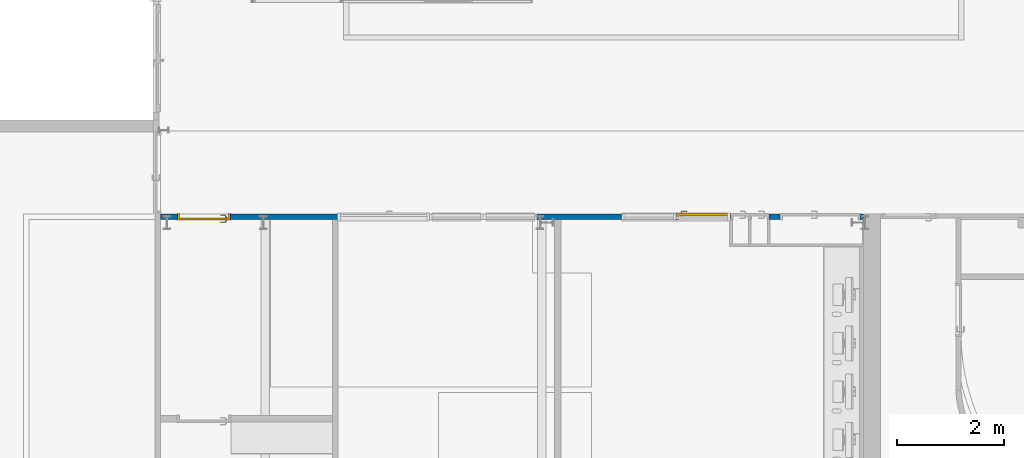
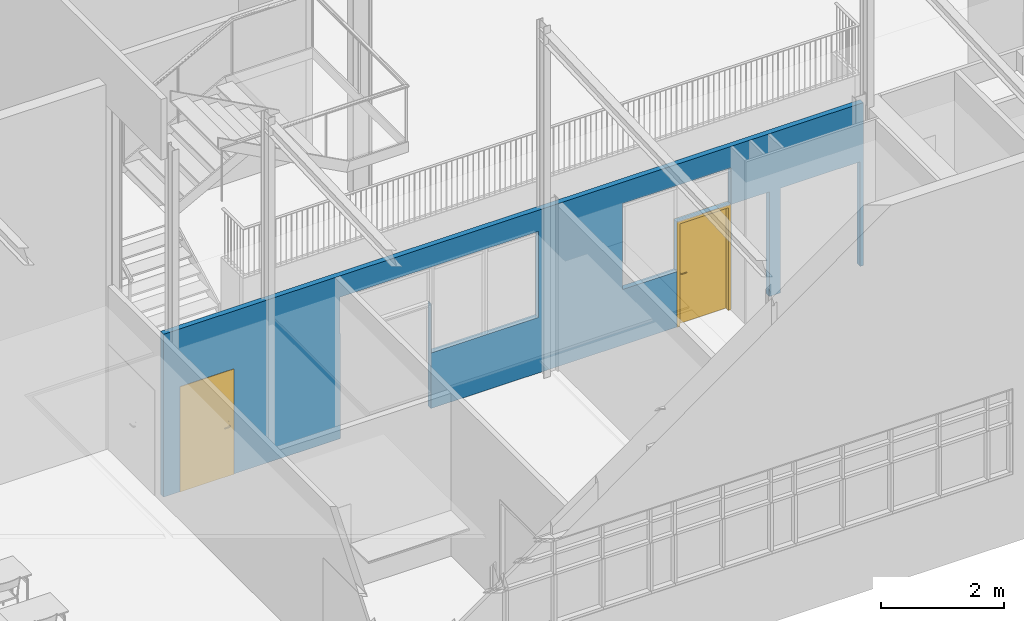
# One storey, part 37 of 137: 2 doors, 1 wall, 10 openings.
"""IFC2X3 building model written with IfcOpenShell, lengths in centimetres."""

import ifcopenshell
import ifcopenshell.guid

model = None  # the IFC model being written
_history = None  # IfcOwnerHistory: only IFC2X3 demands one
_inside = {}  # id of a spatial element -> (the spatial element, [elements in it])
_under = {}  # id of a project, library or spatial element -> (it, [spatial elements below it])
_declared = {}  # id of a project -> (the project, [libraries it declares])
_typed = {}  # id of a type object -> (the type object, [elements of that type])
_made_of = {}  # id of a material, layer set ... -> (it, [elements and type objects made of it])


def new_model(schema):
    """Start an empty IFC model of exactly this schema.

    Asked for "IFC4X3", IfcOpenShell would pick the latest addendum, in which some entities
    have other attributes; the version numbers below select the first issue.
    IFC2X3 requires an IfcOwnerHistory on every rooted entity: one is made here for all.
    """
    global model, _history
    if schema == "IFC4X3":
        model = ifcopenshell.file(schema_version=(4, 3, 0, 0))
    else:
        model = ifcopenshell.file(schema=schema)
    _inside.clear()
    _under.clear()
    _declared.clear()
    _typed.clear()
    _made_of.clear()
    _history = None
    if model.schema == "IFC2X3":
        org = make("IfcOrganization", Name="unknown")
        user = make(
            "IfcPersonAndOrganization",
            ThePerson=make("IfcPerson", FamilyName="unknown"),
            TheOrganization=org,
        )
        app = make(
            "IfcApplication",
            ApplicationDeveloper=org,
            Version="unknown",
            ApplicationFullName="unknown",
            ApplicationIdentifier="unknown",
        )
        _history = make(
            "IfcOwnerHistory",
            OwningUser=user,
            OwningApplication=app,
            ChangeAction="ADDED",
            CreationDate=0,
        )
    return model


def make(cls, **values):
    """One entity of the class cls with the attributes given. An attribute that is None is left unset."""
    return model.create_entity(
        cls, **{name: value for name, value in values.items() if value is not None}
    )


def entity(cls, *values):
    """Any entity or typed value of the class cls, its attributes in the order of the schema. None: left unset."""
    e = model.create_entity(cls)
    for i, value in enumerate(values):
        if value is not None:
            e[i] = value
    return e


def rooted(cls, **values):
    """An entity with a GlobalId (a new one), such as an element, a storey or a relation."""
    return make(cls, GlobalId=ifcopenshell.guid.new(), OwnerHistory=_history, **values)


def si_unit(unit_type, name, prefix=None):
    """IfcSIUnit, for example si_unit("LENGTHUNIT", "METRE", prefix="MILLI")."""
    return make("IfcSIUnit", UnitType=unit_type, Prefix=prefix, Name=name)


def converted_unit(unit_type, name, factor, base, dimensions=None, offset=None):
    """IfcConversionBasedUnit, such as the inch: factor (a typed value) times the base unit."""
    return make(
        "IfcConversionBasedUnit"
        if offset is None
        else "IfcConversionBasedUnitWithOffset",
        ConversionOffset=offset,
        Dimensions=None
        if dimensions is None
        else entity("IfcDimensionalExponents", *dimensions),
        UnitType=unit_type,
        Name=name,
        ConversionFactor=make(
            "IfcMeasureWithUnit", ValueComponent=factor, UnitComponent=base
        ),
    )


def derived_unit(unit_type, elements):
    """IfcDerivedUnit: a product of units, each with its exponent."""
    return make(
        "IfcDerivedUnit",
        Elements=[
            make("IfcDerivedUnitElement", Unit=unit, Exponent=power)
            for unit, power in elements
        ],
        UnitType=unit_type,
    )


def assignment(units):
    """IfcUnitAssignment: the units of a project."""
    return None if units is None else make("IfcUnitAssignment", Units=units)


def point(xyz):
    """IfcCartesianPoint."""
    return None if xyz is None else make("IfcCartesianPoint", Coordinates=xyz)


def direction(xyz):
    """IfcDirection."""
    return None if xyz is None else make("IfcDirection", DirectionRatios=xyz)


def frame(location, z_axis=None, x_axis=None):
    """IfcAxis2Placement3D, a coordinate frame: its origin and axes. An axis left out is left unset."""
    return make(
        "IfcAxis2Placement3D",
        Location=point(location),
        Axis=direction(z_axis),
        RefDirection=direction(x_axis),
    )


def frame_2d(location, x_axis=None):
    """IfcAxis2Placement2D, a coordinate frame in the plane: its origin and x axis."""
    return make(
        "IfcAxis2Placement2D", Location=point(location), RefDirection=direction(x_axis)
    )


def origin():
    """The frame at (0, 0, 0) with its axes left unset."""
    return frame((0.0, 0.0, 0.0))


def place(relative_to, where):
    """IfcLocalPlacement: puts the frame where relative to a parent placement (None: the world)."""
    return make(
        "IfcLocalPlacement", PlacementRelTo=relative_to, RelativePlacement=where
    )


def context(
    kind, dimensions, precision=None, world=None, true_north=None, identifier=None
):
    """IfcGeometricRepresentationContext, for example the 3D "Model" context."""
    return make(
        "IfcGeometricRepresentationContext",
        ContextIdentifier=identifier,
        ContextType=kind,
        CoordinateSpaceDimension=dimensions,
        Precision=precision,
        WorldCoordinateSystem=world,
        TrueNorth=true_north,
    )


def subcontext(parent, identifier, kind, view, scale=None):
    """IfcGeometricRepresentationSubContext, for example "Body" below "Model"."""
    return make(
        "IfcGeometricRepresentationSubContext",
        ContextIdentifier=identifier,
        ContextType=kind,
        ParentContext=parent,
        TargetScale=scale,
        TargetView=view,
    )


def project(units=None, contexts=None):
    """IfcProject with its units and contexts."""
    return rooted(
        "IfcProject",
        Name="project",
        RepresentationContexts=contexts,
        UnitsInContext=assignment(units),
    )


def spatial(cls, under=None, at=None, **own):
    """A site, building, storey or space (cls), placed at a placement, below another one or the project."""
    s = rooted(cls, ObjectPlacement=at, **own)
    if under is not None:
        _under.setdefault(under.id(), (under, []))[1].append(s)
    return s


def polyline(points):
    """IfcPolyline through the points."""
    return make("IfcPolyline", Points=[point(p) for p in points])


def profile(cls, at=None, kind="AREA", **sizes):
    """A parametric profile (cls). Its sizes go by their IFC names, for example OverallWidth=200.0."""
    return make(cls, ProfileType=kind, Position=at, **sizes)


def rectangle(**sizes):
    """IfcRectangleProfileDef."""
    return profile("IfcRectangleProfileDef", **sizes)


def outline(outer, holes=None, kind="AREA"):
    """IfcArbitraryClosedProfileDef: a profile drawn as a closed curve; with holes, ...WithVoids."""
    if holes is None:
        return make("IfcArbitraryClosedProfileDef", ProfileType=kind, OuterCurve=outer)
    return make(
        "IfcArbitraryProfileDefWithVoids",
        ProfileType=kind,
        OuterCurve=outer,
        InnerCurves=holes,
    )


def extrude(swept, where, along, depth):
    """IfcExtrudedAreaSolid: the profile swept, set in the frame where, extruded along a direction by depth."""
    return make(
        "IfcExtrudedAreaSolid",
        SweptArea=swept,
        Position=where,
        ExtrudedDirection=direction(along),
        Depth=depth,
    )


def clip(a, b, op="DIFFERENCE"):
    """IfcBooleanClippingResult: the solid a cut by the half space b."""
    return make(
        "IfcBooleanClippingResult", Operator=op, FirstOperand=a, SecondOperand=b
    )


def bounded_halfspace(plane, agree, where, boundary):
    """IfcPolygonalBoundedHalfSpace: a half space limited to a polygon's prism."""
    return make(
        "IfcPolygonalBoundedHalfSpace",
        BaseSurface=make("IfcPlane", Position=plane),
        AgreementFlag=agree,
        Position=where,
        PolygonalBoundary=boundary,
    )


def faces_of(points, faces, orient=None, outer=None):
    """IfcFace entities. A face is a list of loops; a loop is a list of indices into points, from 0.

    orient and outer hold one flag for each loop. By default every Orientation is true, the
    first loop of a face is its IfcFaceOuterBound and the others are IfcFaceBound.
    """
    made = []
    for i, loops in enumerate(faces):
        bounds = []
        for j, loop in enumerate(loops):
            is_outer = j == 0 if outer is None else outer[i][j]
            bounds.append(
                make(
                    "IfcFaceOuterBound" if is_outer else "IfcFaceBound",
                    Bound=make("IfcPolyLoop", Polygon=[points[k] for k in loop]),
                    Orientation=True if orient is None else orient[i][j],
                )
            )
        made.append(make("IfcFace", Bounds=bounds))
    return made


def faceted_brep(points, faces, orient=None, outer=None, voids=None):
    """IfcFacetedBrep: a solid bounded by flat faces; with voids (closed shells), ...WithVoids."""
    shared = [point(p) for p in points]
    hull = make("IfcClosedShell", CfsFaces=faces_of(shared, faces, orient, outer))
    if voids is None:
        return make("IfcFacetedBrep", Outer=hull)
    return make(
        "IfcFacetedBrepWithVoids",
        Outer=hull,
        Voids=[
            make(cls, CfsFaces=faces_of(shared, fs, o, b)) for cls, fs, o, b in voids
        ],
    )


def shape(context_of_items, identifier, shape_type, items):
    """IfcShapeRepresentation: the items that make up one representation, for example the "Body"."""
    return make(
        "IfcShapeRepresentation",
        ContextOfItems=context_of_items,
        RepresentationIdentifier=identifier,
        RepresentationType=shape_type,
        Items=items,
    )


def source(mapping_origin, context_of_items, identifier, shape_type, items):
    """IfcRepresentationMap: a shape defined once, which mapped items show again and again."""
    return make(
        "IfcRepresentationMap",
        MappingOrigin=mapping_origin,
        MappedRepresentation=shape(context_of_items, identifier, shape_type, items),
    )


def transform(
    local_origin,
    x_axis=None,
    y_axis=None,
    z_axis=None,
    scale=None,
    scale2=None,
    scale3=None,
    uniform=True,
):
    """IfcCartesianTransformationOperator3D, or its non-uniform kind. x_axis, y_axis, z_axis: its Axis1, 2, 3."""
    if uniform:
        return make(
            "IfcCartesianTransformationOperator3D",
            Axis1=direction(x_axis),
            Axis2=direction(y_axis),
            LocalOrigin=point(local_origin),
            Scale=scale,
            Axis3=direction(z_axis),
        )
    return make(
        "IfcCartesianTransformationOperator3DnonUniform",
        Axis1=direction(x_axis),
        Axis2=direction(y_axis),
        LocalOrigin=point(local_origin),
        Scale=scale,
        Axis3=direction(z_axis),
        Scale2=scale2,
        Scale3=scale3,
    )


def mapped(mapping_source, mapping_target):
    """IfcMappedItem: shows the shape of a source again, moved by a transform."""
    return make(
        "IfcMappedItem", MappingSource=mapping_source, MappingTarget=mapping_target
    )


def material(Name=None, Category=None):
    """IfcMaterial."""
    return make("IfcMaterial", Name=Name, Category=Category)


def material_list(materials):
    """IfcMaterialList."""
    return make("IfcMaterialList", Materials=materials)


def layer(
    of_material, thickness, ventilated=None, Name=None, Category=None, Priority=None
):
    """IfcMaterialLayer: one layer of a wall or slab, of a material (None: an air gap)."""
    return make(
        "IfcMaterialLayer",
        Material=of_material,
        LayerThickness=thickness,
        IsVentilated=ventilated,
        Name=Name,
        Category=Category,
        Priority=Priority,
    )


def layer_set(layers, Name=None):
    """IfcMaterialLayerSet."""
    return make("IfcMaterialLayerSet", MaterialLayers=layers, LayerSetName=Name)


def layer_usage(for_layer_set, set_direction, sense, offset, extent=None):
    """IfcMaterialLayerSetUsage: how a layer set lies in its element."""
    return make(
        "IfcMaterialLayerSetUsage",
        ForLayerSet=for_layer_set,
        LayerSetDirection=set_direction,
        DirectionSense=sense,
        OffsetFromReferenceLine=offset,
        ReferenceExtent=extent,
    )


def made_of(thing, what):
    """Note that an element or type object is made of a material, layer set ...; save() writes the relation."""
    if what is not None:
        _made_of.setdefault(what.id(), (what, []))[1].append(thing)
    return thing


def type_object(cls, material=None, **own):
    """A type object (cls), such as IfcWallType, which elements share."""
    return made_of(rooted(cls, **own), material)


def type_shapes(of_type, sources):
    """Give a type object the sources (RepresentationMaps) that its elements show as mapped items."""
    of_type.RepresentationMaps = sources


def element(
    cls,
    number,
    at=None,
    inside=None,
    cuts=None,
    type_object=None,
    material=None,
    context=None,
    identifier="Body",
    shape_type=None,
    held_by="IfcProductDefinitionShape",
    body=None,
    shapes=None,
    **own,
):
    """One element of the class cls, such as IfcWall. Its Tag is "e" and its number.

    at: its placement. inside: the storey or other place that contains it. cuts: it is an
    opening in that element (IfcRelVoidsElement). A single representation is given by context,
    identifier, shape_type and body (its items); several are given by shapes. held_by: the class
    of the entity that holds the representations. save() writes the other relations.
    """
    e = rooted(cls, Tag="e%d" % number, ObjectPlacement=at, **own)
    if body is not None:
        shapes = [shape(context, identifier, shape_type, body)]
    if shapes is not None:
        e.Representation = make(held_by, Representations=shapes)
    if inside is not None:
        _inside.setdefault(inside.id(), (inside, []))[1].append(e)
    if cuts is not None:
        rooted(
            "IfcRelVoidsElement", RelatingBuildingElement=cuts, RelatedOpeningElement=e
        )
    if type_object is not None:
        _typed.setdefault(type_object.id(), (type_object, []))[1].append(e)
    return made_of(e, material)


def fill(opening, filler):
    """IfcRelFillsElement: the door or window that sits in an opening."""
    return rooted(
        "IfcRelFillsElement",
        RelatingOpeningElement=opening,
        RelatedBuildingElement=filler,
    )


def aggregate(whole, parts):
    """IfcRelAggregates: a whole, such as a stair, and the parts it consists of."""
    return rooted("IfcRelAggregates", RelatingObject=whole, RelatedObjects=parts)


def save(model, path):
    """Write the relations noted so far, then the file.

    IfcRelAggregates (storeys below a building ...), IfcRelContainedInSpatialStructure (elements
    in a storey), IfcRelDefinesByType, IfcRelAssociatesMaterial and IfcRelDeclares: one each for
    every whole, place, type object, material and project.
    """
    for whole, parts in _under.values():
        aggregate(whole, parts)
    for where, things in _inside.values():
        rooted(
            "IfcRelContainedInSpatialStructure",
            RelatedElements=things,
            RelatingStructure=where,
        )
    for kind, things in _typed.values():
        rooted("IfcRelDefinesByType", RelatedObjects=things, RelatingType=kind)
    for what, things in _made_of.values():
        rooted("IfcRelAssociatesMaterial", RelatedObjects=things, RelatingMaterial=what)
    for by, libraries in _declared.values():
        rooted("IfcRelDeclares", RelatingContext=by, RelatedDefinitions=libraries)
    model.write(path)


model = new_model("IFC2X3")

# Units and contexts
model_context = context("Model", 3, precision=0.001, world=origin(), true_north=direction((6.12303176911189e-17, 1.0)))
body_context = subcontext(model_context, "Body", "Model", "MODEL_VIEW")
ifc_project = project(units=[si_unit("LENGTHUNIT", "METRE", prefix="CENTI"), si_unit("AREAUNIT", "SQUARE_METRE"), si_unit("VOLUMEUNIT", "CUBIC_METRE"), converted_unit("PLANEANGLEUNIT", "DEGREE", entity("IfcRatioMeasure", 0.0174532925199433), si_unit("PLANEANGLEUNIT", "RADIAN"), dimensions=[0, 0, 0, 0, 0, 0, 0]), si_unit("MASSUNIT", "GRAM", prefix="KILO"), si_unit("TIMEUNIT", "SECOND"), si_unit("FREQUENCYUNIT", "HERTZ"), si_unit("THERMODYNAMICTEMPERATUREUNIT", "DEGREE_CELSIUS"), derived_unit("THERMALTRANSMITTANCEUNIT", [(si_unit("MASSUNIT", "GRAM", prefix="KILO"), 1), (si_unit("THERMODYNAMICTEMPERATUREUNIT", "KELVIN"), -1), (si_unit("TIMEUNIT", "SECOND"), -3)]), derived_unit("VOLUMETRICFLOWRATEUNIT", [(si_unit("LENGTHUNIT", "METRE"), 3), (si_unit("TIMEUNIT", "SECOND"), -1)]), si_unit("ELECTRICCURRENTUNIT", "AMPERE"), si_unit("ELECTRICVOLTAGEUNIT", "VOLT"), si_unit("POWERUNIT", "WATT"), si_unit("FORCEUNIT", "NEWTON", prefix="KILO"), si_unit("ILLUMINANCEUNIT", "LUX"), si_unit("LUMINOUSFLUXUNIT", "LUMEN"), si_unit("LUMINOUSINTENSITYUNIT", "CANDELA"), derived_unit("USERDEFINED", [(si_unit("MASSUNIT", "GRAM", prefix="KILO"), -1), (si_unit("LENGTHUNIT", "METRE"), -2), (si_unit("TIMEUNIT", "SECOND"), 3), (si_unit("LUMINOUSFLUXUNIT", "LUMEN"), 1)]), derived_unit("LINEARVELOCITYUNIT", [(si_unit("LENGTHUNIT", "METRE"), 1), (si_unit("TIMEUNIT", "SECOND"), -1)]), si_unit("PRESSUREUNIT", "PASCAL"), derived_unit("USERDEFINED", [(si_unit("LENGTHUNIT", "METRE"), -2), (si_unit("MASSUNIT", "GRAM", prefix="KILO"), 1), (si_unit("TIMEUNIT", "SECOND"), -2)])], contexts=[model_context])

# Site, building, storey
site_placement = place(None, frame((8.62739174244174, -249.285249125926, 0.0)))
site = spatial("IfcSite", under=ifc_project, at=site_placement, Name="Default", CompositionType="ELEMENT")
building_placement = place(site_placement, origin())
building = spatial("IfcBuilding", under=site, at=building_placement, CompositionType="ELEMENT")
storey_placement = place(building_placement, origin())
storey = spatial("IfcBuildingStorey", under=building, at=storey_placement, Name="RDC", CompositionType="ELEMENT", Elevation=-8.82465566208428e-11)

# Wall, openings, doors
ifc_material_1 = material(Name="Plâtre EXISTANT")
ifc_layer = layer(ifc_material_1, 10.0)
ifc_layer_set = layer_set([ifc_layer], Name="Mur de base:PLA EXISTANT 10")
ifc_layer_usage = layer_usage(ifc_layer_set, "AXIS2", "NEGATIVE", 5.0)
wall_type = type_object("IfcWallType", Name="Mur de base:PLA EXISTANT 10", PredefinedType="STANDARD", material=ifc_layer_set)
wall_placement = place(storey_placement, frame((2162.90482780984, 773.0, 0.0), z_axis=(0.0, 0.0, 1.0), x_axis=(-1.0, 0.0, 0.0)))
wall = element("IfcWallStandardCase", 1, at=wall_placement, inside=storey, type_object=wall_type, material=ifc_layer_usage, Name="Mur de base:PLA EXISTANT 10", ObjectType="Mur de base:PLA EXISTANT 10", context=body_context, shape_type="Clipping", body=[
    clip(extrude(rectangle(XDim=1308.9048278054, YDim=9.99999999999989, at=frame_2d((654.4524139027, -1.82076576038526e-14), x_axis=(-1.0, 0.0))), origin(), (0.0, 0.0, 1.0), 322.000000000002), bounded_halfspace(frame((0.0, -5.0, 322.0), z_axis=(0.0, 0.0, -1.0), x_axis=(1.0, 0.0, 0.0)), True, frame((0.0, -5.0, 322.0)), polyline([(0.0, 0.0), (1308.9048278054, 0.0), (1308.9048278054, 10.0), (988.9048278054, 10.0), (978.9048278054, 10.0), (574.90482780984, 10.0), (562.90482780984, 10.0), (249.0, 10.0), (244.0, 10.0), (214.0, 10.0), (209.0, 10.0), (179.0, 10.0), (174.0, 10.0), (0.0, 10.0), (0.0, 0.0)]))),
])
opening_1_placement = place(wall_placement, origin())
element("IfcOpeningElement", 2, at=opening_1_placement, cuts=wall, Name="Mur de base:PLA EXISTANT 10", ObjectType="Opening", context=body_context, shape_type="SweptSolid", body=[
    extrude(rectangle(XDim=72.9999999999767, YDim=171.0, at=frame_2d((0.0, 0.0), x_axis=(0.0, 1.0))), frame((893.500000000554, -20.2399999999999, 243.499999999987), z_axis=(0.0, 1.0, 0.0), x_axis=(-1.0, 0.0, 0.0)), (0.0, 0.0, 1.0), 40.48),
])
opening_2_placement = place(wall_placement, origin())
element("IfcOpeningElement", 3, at=opening_2_placement, cuts=wall, Name="Mur de base:PLA EXISTANT 10", ObjectType="Opening", context=body_context, shape_type="SweptSolid", body=[
    extrude(rectangle(XDim=170.0, YDim=100.0, at=frame_2d((0.0, -1.10134124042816e-13), x_axis=(1.0, 0.0))), frame((758.0, -20.2400000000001, 195.0), z_axis=(0.0, 1.0, 0.0), x_axis=(0.0, 0.0, 1.0)), (0.0, 0.0, 1.0), 40.48),
])
opening_3_placement = place(wall_placement, origin())
element("IfcOpeningElement", 4, at=opening_3_placement, cuts=wall, Name="Mur de base:PLA EXISTANT 10", ObjectType="Opening", context=body_context, shape_type="SweptSolid", body=[
    extrude(rectangle(XDim=170.0, YDim=100.0, at=frame_2d((0.0, -1.10134124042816e-13), x_axis=(1.0, 0.0))), frame((658.0, -20.2400000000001, 195.0), z_axis=(0.0, 1.0, 0.0), x_axis=(0.0, 0.0, 1.0)), (0.0, 0.0, 1.0), 40.48),
])
opening_4_placement = place(wall_placement, origin())
element("IfcOpeningElement", 5, at=opening_4_placement, cuts=wall, Name="Mur de base:PLA EXISTANT 10", ObjectType="Opening", context=body_context, shape_type="SweptSolid", body=[
    extrude(outline(polyline([(-101.666666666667, -89.3333333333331), (0.333333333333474, -89.3333333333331), (0.333333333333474, 8.66666666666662), (101.333333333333, 8.66666666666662), (101.333333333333, 80.6666666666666), (-101.666666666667, 80.6666666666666), (-101.666666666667, -89.3333333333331)])), frame((349.333333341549, -20.2400000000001, 199.333333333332), z_axis=(0.0, 1.0, 0.0), x_axis=(-1.0, 0.0, 0.0)), (0.0, 0.0, 1.0), 40.48),
])
opening_5_placement = place(wall_placement, frame((155.0, 5.0, 0.0)))
element("IfcOpeningElement", 6, at=opening_5_placement, cuts=wall, Name="Double(R)_bois_Existant_mu:143 x 204 cm:1", ObjectType="Opening", context=body_context, shape_type="SweptSolid", body=[
    extrude(rectangle(XDim=206.999999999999, YDim=149.0, at=frame_2d((103.499999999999, 74.5), x_axis=(1.0, 0.0))), frame((0.0, 0.0, 0.0), z_axis=(0.0, -1.0, 0.0), x_axis=(0.0, 0.0, 1.0)), (0.0, 0.0, 1.0), 10.0),
])
opening_6_placement = place(wall_placement, frame((978.0, 5.0, 0.0)))
element("IfcOpeningElement", 7, at=opening_6_placement, cuts=wall, Name="Double(R)_bois_Existant_mu:163 x 204 cm:1", ObjectType="Opening", context=body_context, shape_type="SweptSolid", body=[
    extrude(rectangle(XDim=206.999999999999, YDim=169.0, at=frame_2d((103.499999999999, 84.4999999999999), x_axis=(1.0, 0.0))), frame((0.0, 0.0, 0.0), z_axis=(0.0, -1.0, 0.0), x_axis=(0.0, 0.0, 1.0)), (0.0, 0.0, 1.0), 10.0),
])
opening_7_placement = place(wall_placement, frame((348.0, 5.0, 0.0)))
opening_7 = element("IfcOpeningElement", 8, at=opening_7_placement, cuts=wall, Name="Simple(R)_bois_Existant_mu:93 x 204 cm:1", ObjectType="Opening", context=body_context, shape_type="SweptSolid", body=[
    extrude(rectangle(XDim=206.999999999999, YDim=98.9999999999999, at=frame_2d((103.499999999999, 49.4999999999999), x_axis=(1.0, 0.0))), frame((0.0, 0.0, 0.0), z_axis=(0.0, -1.0, 0.0), x_axis=(0.0, 0.0, 1.0)), (0.0, 0.0, 1.0), 10.0),
])
opening_8_placement = place(wall_placement, frame((1178.49999999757, -5.0, 0.0)))
opening_8 = element("IfcOpeningElement", 9, at=opening_8_placement, cuts=wall, Name="Simple(R)_bois_Existant_mu:93 x 204 cm:1", ObjectType="Opening", context=body_context, shape_type="SweptSolid", body=[
    extrude(rectangle(XDim=206.999999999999, YDim=98.9999999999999, at=frame_2d((103.499999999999, 49.4999999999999), x_axis=(1.0, 0.0))), frame((0.0, 0.0, 0.0), z_axis=(0.0, 1.0, 0.0), x_axis=(0.0, 0.0, 1.0)), (0.0, 0.0, 1.0), 10.0),
])
opening_9_placement = place(wall_placement, frame((247.0, 5.0, 0.0)))
element("IfcOpeningElement", 10, at=opening_9_placement, cuts=wall, Name="Simple(R)_bois_Existant_mu:30 x 204 cm:1", ObjectType="Opening", context=body_context, shape_type="SweptSolid", body=[
    extrude(rectangle(XDim=206.999999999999, YDim=36.0, at=frame_2d((103.499999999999, 18.0000000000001), x_axis=(1.0, 0.0))), frame((0.0, 0.0, 0.0), z_axis=(0.0, -1.0, 0.0), x_axis=(0.0, 0.0, 1.0)), (0.0, 0.0, 1.0), 10.0),
])
opening_10_placement = place(wall_placement, frame((212.0, 5.0, 0.0)))
element("IfcOpeningElement", 11, at=opening_10_placement, cuts=wall, Name="Simple(R)_bois_Existant_mu:30 x 204 cm:1", ObjectType="Opening", context=body_context, shape_type="SweptSolid", body=[
    extrude(rectangle(XDim=206.999999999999, YDim=36.0, at=frame_2d((103.499999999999, 18.0000000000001), x_axis=(1.0, 0.0))), frame((0.0, 0.0, 0.0), z_axis=(0.0, -1.0, 0.0), x_axis=(0.0, 0.0, 1.0)), (0.0, 0.0, 1.0), 10.0),
])
ifc_material_2 = material(Name="Porte - Poignée")
ifc_material_3 = material(Name="Porte - Cadre")
ifc_material_4 = material(Name="Porte - Panneau")
ifc_material_list_1 = material_list([ifc_material_2, ifc_material_3, ifc_material_4])
ifc_material_list_2 = material_list([ifc_material_2, ifc_material_3, ifc_material_4])
door_style = type_object("IfcDoorStyle", Name="93 x 204 cm", ConstructionType="NOTDEFINED", OperationType="SINGLE_SWING_LEFT", ParameterTakesPrecedence=False, Sizeable=False, material=ifc_material_list_2)
shared_shape = source(origin(), body_context, "Body", "Brep", [
    faceted_brep([(91.7025298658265, 3.69999999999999, 100.778044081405), (91.2974701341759, 3.69999999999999, 100.778044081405), (90.8999999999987, 3.69999999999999, 100.699999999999), (90.9000000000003, 3.69999999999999, 99.3000000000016), (91.2974701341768, 3.69999999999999, 99.2219559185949), (91.7025298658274, 3.69999999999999, 99.2219559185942), (92.1000000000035, 3.69999999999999, 99.2999999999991), (92.1000000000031, 3.69999999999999, 100.699999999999), (90.8999999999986, 5.94852045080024, 100.699999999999), (90.8999999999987, 5.94852045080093, 99.3000000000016), (91.2974701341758, 6.1131579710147, 100.778044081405), (91.7025298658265, 6.2809392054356, 100.778044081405), (90.0838906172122, 7.89957845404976, 100.778044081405), (89.9161093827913, 7.49451872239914, 100.778044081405), (81.5793122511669, 7.49451872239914, 100.778044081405), (81.411531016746, 7.89957845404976, 100.778044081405), (80.6451046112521, 7.13315204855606, 100.778044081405), (80.9315250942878, 6.84673156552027, 100.778044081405), (92.1000000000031, 6.44557672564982, 100.699999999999), (92.1000000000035, 6.44557672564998, 99.2999999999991), (91.7025298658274, 6.28093920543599, 99.2219559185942), (91.2974701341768, 6.11315797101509, 99.2219559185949), (89.9161093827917, 7.49451872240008, 99.2219559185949), (90.0838906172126, 7.8995784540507, 99.2219559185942), (81.4115310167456, 7.8995784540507, 99.2219559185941), (81.5793122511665, 7.49451872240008, 99.2219559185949), (80.9315250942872, 6.84673156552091, 99.2219559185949), (80.6451046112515, 7.1331520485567, 99.2219559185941), (89.7514718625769, 7.09704858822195, 100.699999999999), (89.7514718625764, 7.09704858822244, 99.3000000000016), (90.2485281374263, 8.29704858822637, 100.699999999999), (90.2485281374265, 8.29704858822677, 99.2999999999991), (85.7477108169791, 7.09704858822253, 100.699999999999), (81.7439497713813, 7.09704858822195, 100.699999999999), (81.7439497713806, 7.09704858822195, 99.3000000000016), (85.7477108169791, 7.09704858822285, 99.3000000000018), (85.7477108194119, 7.71249275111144, 100.787811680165), (85.2399422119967, 8.29704858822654, 100.699999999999), (81.2468934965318, 8.29704858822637, 100.699999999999), (86.2554791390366, 8.29704858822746, 99.2999999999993), (81.2468934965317, 8.29704858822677, 99.2999999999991), (85.7477107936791, 7.71249274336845, 99.2121883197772), (80.3640507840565, 7.41420587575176, 100.699999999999), (80.364050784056, 7.41420587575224, 99.2999999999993), (81.2125789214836, 6.56567773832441, 99.3000000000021), (81.2125789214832, 6.56567773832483, 100.699999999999)], [[[0, 1, 2, 3, 4, 5, 6, 7]], [[8, 9, 3, 2]], [[1, 10, 8, 2]], [[1, 0, 11, 12, 13, 10]], [[14, 15, 16, 17]], [[7, 18, 11, 0]], [[18, 7, 6, 19]], [[6, 5, 20, 19]], [[5, 4, 21, 22, 23, 20]], [[24, 25, 26, 27]], [[4, 3, 9, 21]], [[28, 29, 9, 8]], [[8, 10, 13, 28]], [[18, 30, 12, 11]], [[31, 30, 18, 19]], [[19, 20, 23, 31]], [[21, 9, 29, 22]], [[29, 28, 32, 33, 34, 35]], [[36, 32, 13]], [[37, 38, 15]], [[37, 12, 30]], [[36, 12, 37]], [[14, 32, 36]], [[36, 15, 14]], [[28, 13, 32]], [[32, 14, 33]], [[12, 36, 13]], [[15, 36, 37]], [[30, 31, 39, 40, 38, 37]], [[23, 41, 39]], [[24, 39, 41]], [[39, 31, 23]], [[39, 24, 40]], [[22, 35, 41]], [[41, 23, 22]], [[41, 35, 25]], [[35, 22, 29]], [[34, 25, 35]], [[24, 41, 25]], [[17, 16, 42, 43, 27, 26, 44, 45]], [[45, 44, 34, 33]], [[33, 14, 17, 45]], [[15, 38, 42, 16]], [[43, 42, 38, 40]], [[24, 27, 43, 40]], [[34, 44, 26, 25]]]),
    faceted_brep([(91.2974701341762, -1.30000000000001, 100.778044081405), (91.7025298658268, -1.30000000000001, 100.778044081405), (92.1000000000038, -1.30000000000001, 100.699999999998), (92.1000000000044, -1.30000000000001, 99.2999999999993), (91.7025298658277, -1.30000000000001, 99.2219559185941), (91.297470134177, -1.30000000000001, 99.2219559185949), (90.899999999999, -1.30000000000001, 99.3000000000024), (90.8999999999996, -1.30000000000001, 100.699999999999), (91.7025298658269, -3.90045754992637, 100.778044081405), (92.100000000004, -4.06509507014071, 100.699999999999), (91.2974701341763, -3.73267631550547, 100.778044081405), (89.9298602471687, -5.10028620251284, 100.778044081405), (90.0976414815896, -5.50534593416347, 100.778044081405), (81.4142453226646, -5.50534593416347, 100.778044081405), (81.5820265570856, -5.10028620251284, 100.778044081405), (80.9342394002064, -4.4524990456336, 100.778044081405), (80.6478189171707, -4.73891952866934, 100.778044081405), (90.8999999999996, -3.56803879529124, 100.699999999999), (90.899999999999, -3.56803879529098, 99.3000000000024), (91.297470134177, -3.7326763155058, 99.2219559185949), (91.7025298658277, -3.9004575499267, 99.2219559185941), (90.09764148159, -5.50534593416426, 99.2219559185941), (89.9298602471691, -5.10028620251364, 99.2219559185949), (81.5820265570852, -5.10028620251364, 99.2219559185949), (81.4142453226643, -5.50534593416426, 99.2219559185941), (80.6478189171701, -4.73891952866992, 99.2219559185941), (80.9342394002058, -4.45249904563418, 99.2219559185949), (92.1000000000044, -4.06509507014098, 99.2999999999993), (90.2622790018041, -5.90281606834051, 100.699999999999), (89.7652227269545, -4.70281606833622, 100.699999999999), (89.7652227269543, -4.70281606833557, 99.3000000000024), (90.2622790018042, -5.90281606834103, 99.2999999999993), (85.7559433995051, -5.31828027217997, 100.787811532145), (86.2692302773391, -5.90281606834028, 100.699999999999), (81.2496078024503, -5.90281606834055, 100.699999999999), (85.755943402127, -4.70281606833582, 100.699999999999), (81.7466640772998, -4.70281606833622, 100.699999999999), (85.7559436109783, -4.70281606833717, 99.3000000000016), (81.7466640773, -4.70281606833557, 99.3000000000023), (85.7559434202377, -5.31828027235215, 99.2121884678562), (85.2426572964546, -5.90281606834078, 99.2999999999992), (81.24960780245, -5.90281606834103, 99.2999999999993), (81.2152932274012, -4.17144521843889, 99.3000000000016), (80.366765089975, -5.01997335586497, 99.2999999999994), (80.3667650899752, -5.01997335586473, 100.699999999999), (81.2152932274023, -4.17144521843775, 100.699999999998)], [[[0, 1, 2, 3, 4, 5, 6, 7]], [[2, 1, 8, 9]], [[1, 0, 10, 11, 12, 8]], [[13, 14, 15, 16]], [[0, 7, 17, 10]], [[18, 17, 7, 6]], [[5, 19, 18, 6]], [[5, 4, 20, 21, 22, 19]], [[23, 24, 25, 26]], [[3, 27, 20, 4]], [[9, 27, 3, 2]], [[9, 8, 12, 28]], [[10, 17, 29, 11]], [[30, 29, 17, 18]], [[18, 19, 22, 30]], [[20, 27, 31, 21]], [[28, 31, 27, 9]], [[12, 32, 33]], [[13, 33, 32]], [[33, 28, 12]], [[33, 13, 34]], [[11, 35, 32]], [[32, 12, 11]], [[32, 35, 14]], [[35, 11, 29]], [[36, 14, 35]], [[13, 32, 14]], [[29, 30, 37, 38, 36, 35]], [[39, 37, 22]], [[40, 41, 24]], [[40, 21, 31]], [[39, 21, 40]], [[23, 37, 39]], [[39, 24, 23]], [[30, 22, 37]], [[37, 23, 38]], [[21, 39, 22]], [[24, 39, 40]], [[31, 28, 33, 34, 41, 40]], [[42, 26, 25, 43, 44, 16, 15, 45]], [[13, 16, 44, 34]], [[36, 45, 15, 14]], [[42, 45, 36, 38]], [[38, 23, 26, 42]], [[24, 41, 43, 25]], [[44, 43, 41, 34]]]),
    faceted_brep([(91.5000000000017, 3.19999999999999, 86.4641016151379), (92.5352761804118, 3.19999999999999, 86.6003983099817), (93.5000000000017, 3.19999999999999, 87.0), (93.5000000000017, 3.19999999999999, 108.0), (92.5352761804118, 3.19999999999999, 108.399601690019), (91.5000000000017, 3.19999999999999, 108.535898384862), (90.4647238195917, 3.19999999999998, 108.399601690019), (89.5000000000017, 3.19999999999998, 108.0), (89.5000000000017, 3.19999999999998, 87.0), (90.4647238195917, 3.19999999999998, 86.6003983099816), (91.5000000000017, 3.69999999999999, 108.535898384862), (92.5352761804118, 3.69999999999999, 108.399601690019), (93.5000000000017, 3.69999999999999, 108.0), (93.5000000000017, 3.69999999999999, 87.0), (92.5352761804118, 3.69999999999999, 86.6003983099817), (91.5000000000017, 3.69999999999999, 86.4641016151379), (90.4647238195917, 3.69999999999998, 86.6003983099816), (89.5000000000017, 3.69999999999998, 87.0), (89.5000000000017, 3.69999999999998, 108.0), (90.4647238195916, 3.69999999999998, 108.399601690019)], [[[0, 1, 2, 3, 4, 5, 6, 7, 8, 9]], [[10, 11, 12, 13, 14, 15, 16, 17, 18, 19]], [[6, 19, 18, 7]], [[5, 10, 19, 6]], [[4, 11, 10, 5]], [[4, 3, 12, 11]], [[12, 3, 2, 13]], [[1, 14, 13, 2]], [[0, 15, 14, 1]], [[9, 16, 15, 0]], [[9, 8, 17, 16]], [[17, 8, 7, 18]]]),
    faceted_brep([(91.5000000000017, -1.30000000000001, 86.4641016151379), (92.5352761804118, -1.30000000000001, 86.6003983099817), (93.5000000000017, -1.3, 87.0), (93.5000000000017, -1.3, 108.0), (92.5352761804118, -1.30000000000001, 108.399601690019), (91.5000000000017, -1.30000000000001, 108.535898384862), (90.4647238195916, -1.30000000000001, 108.399601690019), (89.5000000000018, -1.30000000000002, 108.0), (89.5000000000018, -1.30000000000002, 87.0), (90.4647238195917, -1.30000000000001, 86.6003983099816), (93.5000000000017, -0.800000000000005, 108.0), (93.5000000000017, -0.800000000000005, 87.0), (92.5352761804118, -0.800000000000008, 86.6003983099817), (91.5000000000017, -0.800000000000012, 86.4641016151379), (90.4647238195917, -0.800000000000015, 86.6003983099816), (89.5000000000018, -0.800000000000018, 87.0), (89.5000000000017, -0.800000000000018, 108.0), (90.4647238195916, -0.800000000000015, 108.399601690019), (91.5000000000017, -0.800000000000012, 108.535898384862), (92.5352761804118, -0.800000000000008, 108.399601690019)], [[[0, 1, 2, 3, 4, 5, 6, 7, 8, 9]], [[10, 11, 12, 13, 14, 15, 16, 17, 18, 19]], [[1, 12, 11, 2]], [[0, 13, 12, 1]], [[9, 14, 13, 0]], [[9, 8, 15, 14]], [[15, 8, 7, 16]], [[6, 17, 16, 7]], [[5, 18, 17, 6]], [[4, 19, 18, 5]], [[4, 3, 10, 19]], [[10, 3, 2, 11]]]),
    faceted_brep([(100.0, 0.0, 0.0), (101.0, 0.0, 0.0), (101.0, -0.799999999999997, 0.0), (97.0, -0.799999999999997, 0.0), (97.0, 3.2, 0.0), (96.0, 3.2, 0.0), (96.0, 10.8000000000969, 0.0), (101.0, 10.8000000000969, 0.0), (101.0, 10.0, 0.0), (100.0, 10.0, 0.0), (100.0, 10.0, 207.0), (100.0, 0.0, 207.0), (101.0, 10.0, 208.0), (0.0, 10.0, 208.0), (0.0, 10.0, 0.0), (1.0, 10.0, 0.0), (1.0, 10.0, 207.0), (101.0, 10.8000000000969, 208.0), (96.0, 10.8000000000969, 203.0), (5.0, 10.8000000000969, 203.0), (5.0, 10.8000000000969, 0.0), (0.0, 10.8000000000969, 0.0), (0.0, 10.8000000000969, 208.0), (96.0, 3.2, 203.0), (97.0, 3.2, 204.0), (4.0, 3.2, 204.0), (4.0, 3.2, 0.0), (5.0, 3.2, 0.0), (5.0, 3.2, 203.0), (97.0, -0.799999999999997, 204.0), (101.0, -0.799999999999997, 208.0), (0.0, -0.799999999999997, 208.0), (0.0, -0.799999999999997, 0.0), (4.0, -0.799999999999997, 0.0), (4.0, -0.799999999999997, 204.0), (101.0, 0.0, 208.0), (1.0, 0.0, 207.0), (1.0, 0.0, 0.0), (0.0, 0.0, 0.0), (0.0, 0.0, 208.0)], [[[0, 1, 2, 3, 4, 5, 6, 7, 8, 9]], [[9, 10, 11, 0]], [[8, 12, 13, 14, 15, 16, 10, 9]], [[7, 17, 12, 8]], [[6, 18, 19, 20, 21, 22, 17, 7]], [[5, 23, 18, 6]], [[4, 24, 25, 26, 27, 28, 23, 5]], [[3, 29, 24, 4]], [[2, 30, 31, 32, 33, 34, 29, 3]], [[1, 35, 30, 2]], [[0, 11, 36, 37, 38, 39, 35, 1]], [[16, 15, 37, 36]], [[37, 15, 14, 21, 20, 27, 26, 33, 32, 38]], [[22, 21, 14, 13]], [[28, 27, 20, 19]], [[34, 33, 26, 25]], [[39, 38, 32, 31]], [[10, 16, 36, 11]], [[17, 22, 13, 12]], [[23, 28, 19, 18]], [[29, 34, 25, 24]], [[35, 39, 31, 30]]]),
    faceted_brep([(97.0, -0.799999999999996, 204.0), (4.0, -0.799999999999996, 204.0), (4.0, -0.799999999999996, 0.0), (97.0, -0.799999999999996, 0.0), (97.0, 3.2, 204.0), (97.0, 3.2, 0.0), (4.0, 3.2, 0.0), (4.0, 3.2, 204.0)], [[[0, 1, 2, 3]], [[4, 5, 6, 7]], [[3, 5, 4, 0]], [[2, 6, 5, 3]], [[1, 7, 6, 2]], [[0, 4, 7, 1]]]),
])
type_shapes(door_style, [shared_shape])
door_1_placement = place(opening_8_placement, frame((100.0, 10.0, 0.0), z_axis=(0.0, 0.0, 1.0), x_axis=(-1.0, 0.0, 0.0)))
door_1 = element("IfcDoor", 12, at=door_1_placement, inside=storey, type_object=door_style, material=ifc_material_list_1, Name="Simple(R)_bois_Existant_mu:93 x 204 cm", ObjectType="93 x 204 cm", OverallHeight=206.999999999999, OverallWidth=99.0, context=body_context, shape_type="MappedRepresentation", body=[
    mapped(shared_shape, transform((0.0, 0.0, 0.0), scale=1.0)),
])
fill(opening_8, door_1)
ifc_material_list_3 = material_list([ifc_material_2, ifc_material_3, ifc_material_4])
door_2_placement = place(opening_7_placement, frame((-100.0, -10.0, 0.0)))
door_2 = element("IfcDoor", 13, at=door_2_placement, inside=storey, type_object=door_style, material=ifc_material_list_3, Name="Simple(R)_bois_Existant_mu:93 x 204 cm", ObjectType="93 x 204 cm", OverallHeight=206.999999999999, OverallWidth=98.9999999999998, context=body_context, shape_type="MappedRepresentation", body=[
    mapped(shared_shape, transform((0.0, 0.0, 0.0), scale=1.0)),
])
fill(opening_7, door_2)

save(model, "model.ifc")
